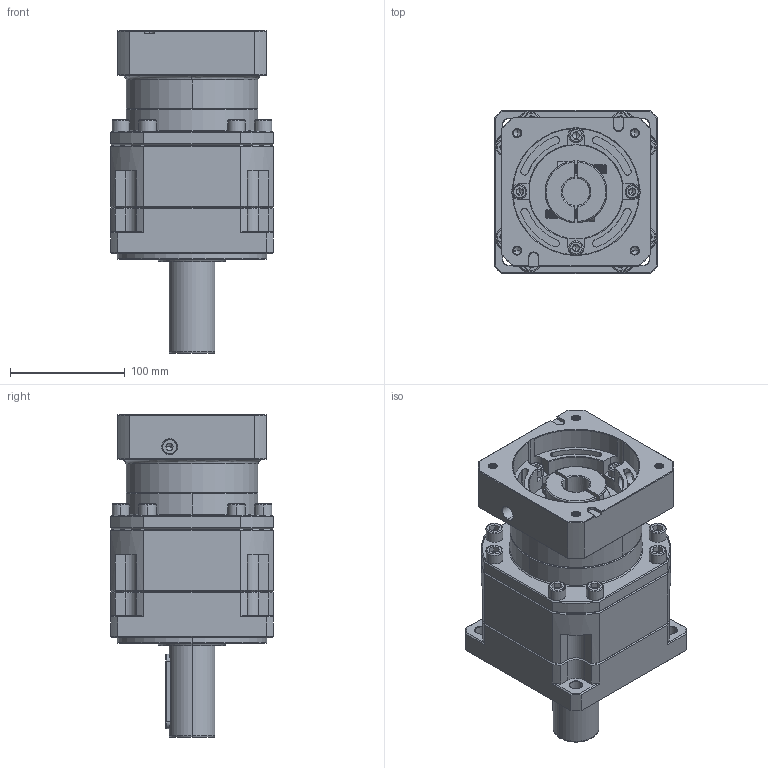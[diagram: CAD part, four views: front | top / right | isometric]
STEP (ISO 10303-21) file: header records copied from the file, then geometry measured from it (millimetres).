
FILE_DESCRIPTION (( 'STEP AP214' ), '1' );
FILE_NAME ('ZB142A-D40-L2-24-110-145-M8.step', '2023-03-18T07:04:52', ( '' ), ( '' ), 'SwSTEP 2.0', 'SolidWorks 2016', '' );
FILE_SCHEMA (( 'AUTOMOTIVE_DESIGN' ));
Length unit declared in the file: millimetre
Products named in the file (1): ZB142A-D40-L2-24-110-145-M8
Bounding box: 142 x 142 x 281.2 mm (x, y, z)
Volume: 2952124.7 mm3; surface area: 255214.4 mm2
Topology: 6 solids, 6 shells, 2324 faces, 6016 edges, 3807 vertices
Faces by surface type: plane 1051, cylinder 517, cone 389, bspline 309, torus 58
Entity records: 123257 total; most frequent: CARTESIAN_POINT 43612, ORIENTED_EDGE 11924, DIRECTION 10137, EDGE_CURVE 5962, VERTEX_POINT 3807, VECTOR 3665, LINE 3665, AXIS2_PLACEMENT_3D 3236
